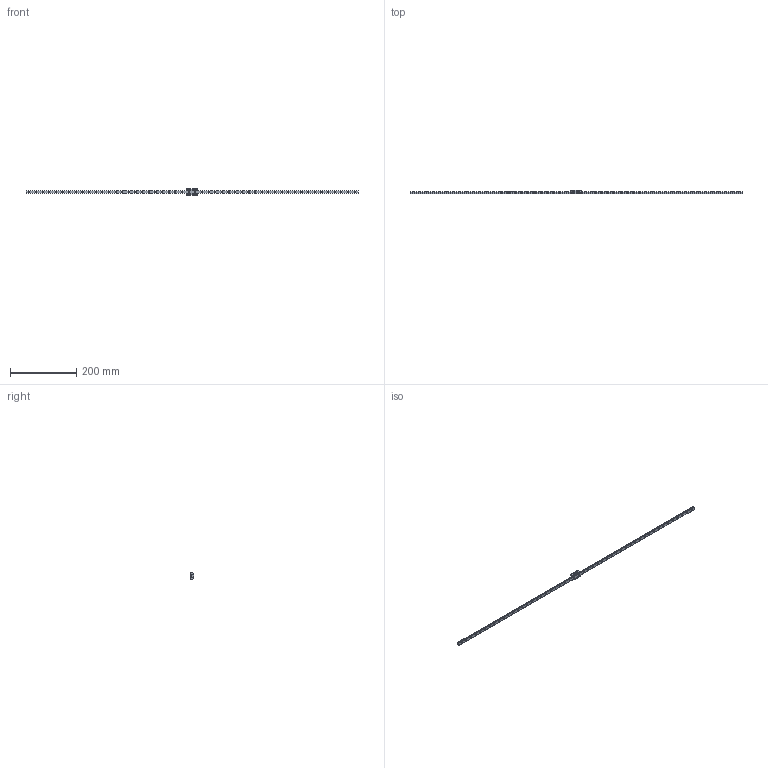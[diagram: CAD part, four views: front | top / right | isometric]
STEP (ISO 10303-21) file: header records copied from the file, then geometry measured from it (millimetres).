
FILE_DESCRIPTION( ( '' ), '1' );
FILE_NAME( 'C:/Users/v3-771-32344/Documents/Website 2016/STEP/SRS9M1UU1000100484.6000.stp', '2016-11-10T13:09:18', ( '' ), ( '' ), ' ', ' ', ' ' );
FILE_SCHEMA( ( 'CONFIG_CONTROL_DESIGN' ) );
Length unit declared in the file: millimetre
Products named in the file (2): 1; 2
Bounding box: 1000 x 10 x 20 mm (x, y, z)
Volume: 43294.5 mm3; surface area: 34613.4 mm2
Topology: 2 solids, 2 shells, 374 faces, 926 edges, 604 vertices
Faces by surface type: cylinder 230, plane 128, cone 16
Entity records: 11506 total; most frequent: DIRECTION 2138, CARTESIAN_POINT 1898, ORIENTED_EDGE 1836, EDGE_CURVE 918, AXIS2_PLACEMENT_3D 844, VERTEX_POINT 604, EDGE_LOOP 530, CIRCLE 464
